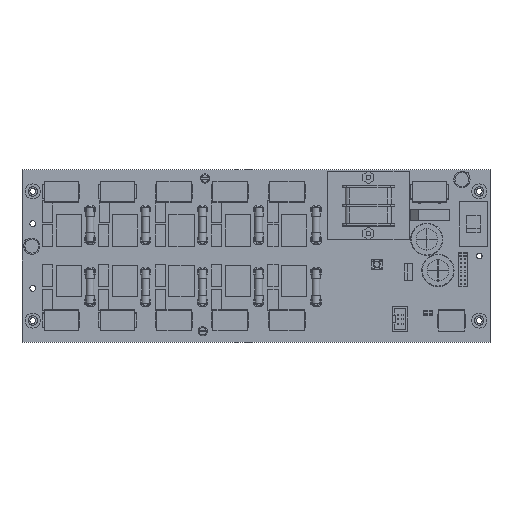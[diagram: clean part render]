
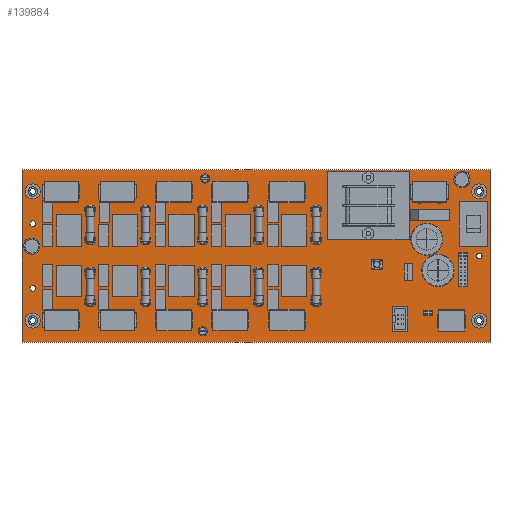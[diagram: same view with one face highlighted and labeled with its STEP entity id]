
A CAD part, top view. The second image highlights one B-rep face of the part: STEP entity #139884.
In plain terms, the highlighted planar face has unit normal (0, 0, 1).
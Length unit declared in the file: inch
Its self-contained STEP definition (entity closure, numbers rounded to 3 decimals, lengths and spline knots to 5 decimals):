
#139436=CARTESIAN_POINT('',(4.0715,3.301,0.487));
#139437=VERTEX_POINT('',#139436);
#139438=CARTESIAN_POINT('',(4.004,3.301,0.487));
#139439=DIRECTION('',(0.0,0.0,-1.0));
#139440=DIRECTION('',(-1.0,0.0,0.0));
#139441=AXIS2_PLACEMENT_3D('',#139438,#139439,#139440);
#139442=CIRCLE('',#139441,0.0675);
#139443=EDGE_CURVE('',#139437,#139437,#139442,.T.);
#139464=CARTESIAN_POINT('',(0.0675,0.75,0.487));
#139465=VERTEX_POINT('',#139464);
#139466=CARTESIAN_POINT('',(0.,0.75,0.487));
#139467=DIRECTION('',(0.0,0.0,-1.0));
#139468=DIRECTION('',(-1.0,0.0,0.0));
#139469=AXIS2_PLACEMENT_3D('',#139466,#139467,#139468);
#139470=CIRCLE('',#139469,0.0675);
#139471=EDGE_CURVE('',#139465,#139465,#139470,.T.);
#139492=CARTESIAN_POINT('',(4.0175,-0.25,0.487));
#139493=VERTEX_POINT('',#139492);
#139494=CARTESIAN_POINT('',(3.95,-0.25,0.487));
#139495=DIRECTION('',(0.0,0.0,-1.0));
#139496=DIRECTION('',(-1.0,0.0,0.0));
#139497=AXIS2_PLACEMENT_3D('',#139494,#139495,#139496);
#139498=CIRCLE('',#139497,0.0675);
#139499=EDGE_CURVE('',#139493,#139493,#139498,.T.);
#139520=CARTESIAN_POINT('',(10.4425,1.5,0.487));
#139521=VERTEX_POINT('',#139520);
#139522=CARTESIAN_POINT('',(10.375,1.5,0.487));
#139523=DIRECTION('',(0.0,0.0,-1.0));
#139524=DIRECTION('',(-1.0,0.,0.0));
#139525=AXIS2_PLACEMENT_3D('',#139522,#139523,#139524);
#139526=CIRCLE('',#139525,0.0675);
#139527=EDGE_CURVE('',#139521,#139521,#139526,.T.);
#139548=CARTESIAN_POINT('',(0.0675,2.25,0.487));
#139549=VERTEX_POINT('',#139548);
#139550=CARTESIAN_POINT('',(0.0,2.25,0.487));
#139551=DIRECTION('',(0.0,0.0,-1.0));
#139552=DIRECTION('',(-1.0,0.0,0.0));
#139553=AXIS2_PLACEMENT_3D('',#139550,#139551,#139552);
#139554=CIRCLE('',#139553,0.0675);
#139555=EDGE_CURVE('',#139549,#139549,#139554,.T.);
#139576=CARTESIAN_POINT('',(-0.0675,3.,0.487));
#139577=VERTEX_POINT('',#139576);
#139578=CARTESIAN_POINT('',(0.0,3.,0.487));
#139579=DIRECTION('',(0.0,0.0,-1.0));
#139580=DIRECTION('',(1.0,0.0,0.0));
#139581=AXIS2_PLACEMENT_3D('',#139578,#139579,#139580);
#139582=CIRCLE('',#139581,0.0675);
#139583=EDGE_CURVE('',#139577,#139577,#139582,.T.);
#139604=CARTESIAN_POINT('',(-0.0675,0.0,0.487));
#139605=VERTEX_POINT('',#139604);
#139606=CARTESIAN_POINT('',(0.,0.,0.487));
#139607=DIRECTION('',(0.0,0.0,-1.0));
#139608=DIRECTION('',(1.0,0.0,0.0));
#139609=AXIS2_PLACEMENT_3D('',#139606,#139607,#139608);
#139610=CIRCLE('',#139609,0.0675);
#139611=EDGE_CURVE('',#139605,#139605,#139610,.T.);
#139632=CARTESIAN_POINT('',(10.4425,0.0,0.487));
#139633=VERTEX_POINT('',#139632);
#139634=CARTESIAN_POINT('',(10.375,0.,0.487));
#139635=DIRECTION('',(0.0,0.0,-1.0));
#139636=DIRECTION('',(-1.0,0.0,0.0));
#139637=AXIS2_PLACEMENT_3D('',#139634,#139635,#139636);
#139638=CIRCLE('',#139637,0.0675);
#139639=EDGE_CURVE('',#139633,#139633,#139638,.T.);
#139660=CARTESIAN_POINT('',(10.4425,3.,0.487));
#139661=VERTEX_POINT('',#139660);
#139662=CARTESIAN_POINT('',(10.375,3.,0.487));
#139663=DIRECTION('',(0.0,0.0,-1.0));
#139664=DIRECTION('',(-1.0,0.0,0.0));
#139665=AXIS2_PLACEMENT_3D('',#139662,#139663,#139664);
#139666=CIRCLE('',#139665,0.0675);
#139667=EDGE_CURVE('',#139661,#139661,#139666,.T.);
#139698=CARTESIAN_POINT('',(10.625,3.5,0.487));
#139699=VERTEX_POINT('',#139698);
#139706=CARTESIAN_POINT('',(10.625,-0.5,0.487));
#139707=VERTEX_POINT('',#139706);
#139708=CARTESIAN_POINT('',(10.625,-0.5,0.487));
#139709=DIRECTION('',(0.0,1.0,0.0));
#139710=VECTOR('',#139709,4.);
#139711=LINE('',#139708,#139710);
#139712=EDGE_CURVE('',#139707,#139699,#139711,.T.);
#139736=CARTESIAN_POINT('',(-0.25,3.5,0.487));
#139737=VERTEX_POINT('',#139736);
#139744=CARTESIAN_POINT('',(10.625,3.5,0.487));
#139745=DIRECTION('',(-1.0,0.0,0.0));
#139746=VECTOR('',#139745,10.875);
#139747=LINE('',#139744,#139746);
#139748=EDGE_CURVE('',#139699,#139737,#139747,.T.);
#139759=CARTESIAN_POINT('',(-0.25,-0.5,0.487));
#139760=VERTEX_POINT('',#139759);
#139776=CARTESIAN_POINT('',(-0.25,-0.5,0.487));
#139777=DIRECTION('',(1.0,0.0,0.0));
#139778=VECTOR('',#139777,10.875);
#139779=LINE('',#139776,#139778);
#139780=EDGE_CURVE('',#139760,#139707,#139779,.T.);
#139798=CARTESIAN_POINT('',(-0.25,3.5,0.487));
#139799=DIRECTION('',(0.0,-1.0,0.0));
#139800=VECTOR('',#139799,4.);
#139801=LINE('',#139798,#139800);
#139802=EDGE_CURVE('',#139737,#139760,#139801,.T.);
#139846=CARTESIAN_POINT('',(5.1875,-0.5,0.487));
#139847=DIRECTION('',(0.0,0.0,1.0));
#139848=DIRECTION('',(1.0,0.0,0.0));
#139849=AXIS2_PLACEMENT_3D('',#139846,#139847,#139848);
#139850=PLANE('',#139849);
#139851=ORIENTED_EDGE('',*,*,#139802,.T.);
#139852=ORIENTED_EDGE('',*,*,#139780,.T.);
#139853=ORIENTED_EDGE('',*,*,#139712,.T.);
#139854=ORIENTED_EDGE('',*,*,#139748,.T.);
#139855=EDGE_LOOP('',(#139851,#139852,#139853,#139854));
#139856=FACE_OUTER_BOUND('',#139855,.T.);
#139857=ORIENTED_EDGE('',*,*,#139443,.T.);
#139858=EDGE_LOOP('',(#139857));
#139859=FACE_BOUND('',#139858,.T.);
#139860=ORIENTED_EDGE('',*,*,#139471,.T.);
#139861=EDGE_LOOP('',(#139860));
#139862=FACE_BOUND('',#139861,.T.);
#139863=ORIENTED_EDGE('',*,*,#139499,.T.);
#139864=EDGE_LOOP('',(#139863));
#139865=FACE_BOUND('',#139864,.T.);
#139866=ORIENTED_EDGE('',*,*,#139527,.T.);
#139867=EDGE_LOOP('',(#139866));
#139868=FACE_BOUND('',#139867,.T.);
#139869=ORIENTED_EDGE('',*,*,#139555,.T.);
#139870=EDGE_LOOP('',(#139869));
#139871=FACE_BOUND('',#139870,.T.);
#139872=ORIENTED_EDGE('',*,*,#139583,.T.);
#139873=EDGE_LOOP('',(#139872));
#139874=FACE_BOUND('',#139873,.T.);
#139875=ORIENTED_EDGE('',*,*,#139611,.T.);
#139876=EDGE_LOOP('',(#139875));
#139877=FACE_BOUND('',#139876,.T.);
#139878=ORIENTED_EDGE('',*,*,#139667,.T.);
#139879=EDGE_LOOP('',(#139878));
#139880=FACE_BOUND('',#139879,.T.);
#139881=ORIENTED_EDGE('',*,*,#139639,.T.);
#139882=EDGE_LOOP('',(#139881));
#139883=FACE_BOUND('',#139882,.T.);
#139884=ADVANCED_FACE('',(#139856,#139859,#139862,#139865,#139868,#139871,#139874,#139877,#139880,#139883),#139850,.T.);
